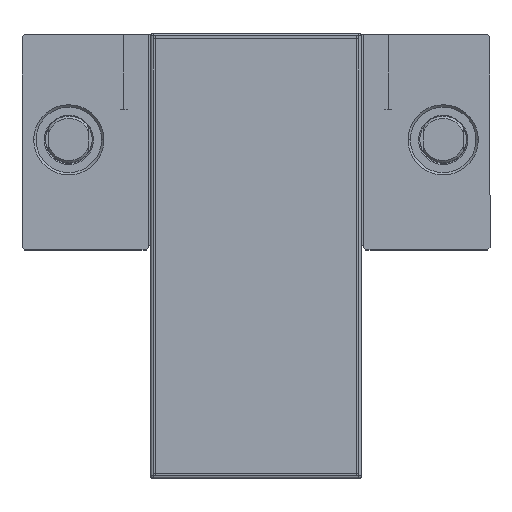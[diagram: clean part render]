
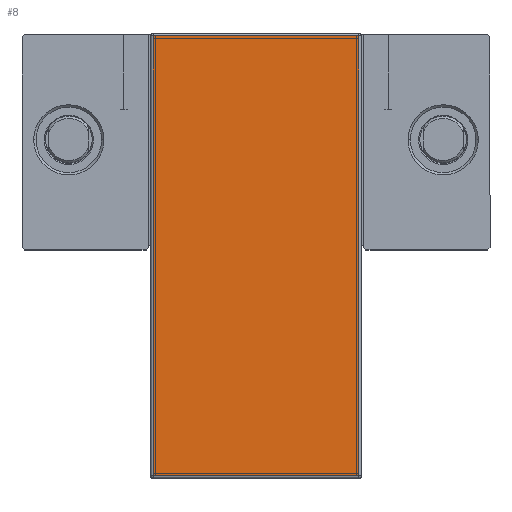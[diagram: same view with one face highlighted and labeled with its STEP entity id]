
A CAD part, top view. The second image highlights one B-rep face of the part: STEP entity #8.
In plain terms, the highlighted planar face has unit normal (0, 0, 1).
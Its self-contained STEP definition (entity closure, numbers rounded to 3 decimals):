
#8 = ADVANCED_FACE ( 'NONE', ( #872 ), #12555, .T. ) ;
#67 = CARTESIAN_POINT ( 'NONE',  ( -44., -144., 271. ) ) ;
#522 = EDGE_LOOP ( 'NONE', ( #25012, #26604, #4637, #23385 ) ) ;
#872 = FACE_OUTER_BOUND ( 'NONE', #522, .T. ) ;
#1768 = EDGE_CURVE ( 'NONE', #25049, #7173, #4438, .T. ) ;
#2947 = DIRECTION ( 'NONE',  ( -1., 0., 0. ) ) ;
#3320 = CARTESIAN_POINT ( 'NONE',  ( 44., -144., 271. ) ) ;
#4438 = LINE ( 'NONE', #30395, #18418 ) ;
#4637 = ORIENTED_EDGE ( 'NONE', *, *, #1768, .T. ) ;
#7173 = VERTEX_POINT ( 'NONE', #9991 ) ;
#9534 = CARTESIAN_POINT ( 'NONE',  ( -44., -144., 271. ) ) ;
#9991 = CARTESIAN_POINT ( 'NONE',  ( 44., 44., 271. ) ) ;
#12555 = PLANE ( 'NONE',  #36917 ) ;
#13236 = VERTEX_POINT ( 'NONE', #21397 ) ;
#13718 = EDGE_CURVE ( 'NONE', #13236, #13950, #24130, .T. ) ;
#13950 = VERTEX_POINT ( 'NONE', #22117 ) ;
#14802 = CARTESIAN_POINT ( 'NONE',  ( -44., 44., 271. ) ) ;
#15173 = DIRECTION ( 'NONE',  ( 1., 0., 0. ) ) ;
#18418 = VECTOR ( 'NONE', #18729, 1000. ) ;
#18729 = DIRECTION ( 'NONE',  ( 0., 1., 0. ) ) ;
#20310 = EDGE_CURVE ( 'NONE', #7173, #13236, #32908, .T. ) ;
#20407 = EDGE_CURVE ( 'NONE', #13950, #25049, #22223, .T. ) ;
#21397 = CARTESIAN_POINT ( 'NONE',  ( -44., 44., 271. ) ) ;
#22117 = CARTESIAN_POINT ( 'NONE',  ( -44., -144., 271. ) ) ;
#22223 = LINE ( 'NONE', #29932, #37052 ) ;
#23385 = ORIENTED_EDGE ( 'NONE', *, *, #20310, .T. ) ;
#24130 = LINE ( 'NONE', #67, #33873 ) ;
#25002 = VECTOR ( 'NONE', #2947, 1000. ) ;
#25012 = ORIENTED_EDGE ( 'NONE', *, *, #13718, .T. ) ;
#25049 = VERTEX_POINT ( 'NONE', #3320 ) ;
#26604 = ORIENTED_EDGE ( 'NONE', *, *, #20407, .T. ) ;
#27304 = DIRECTION ( 'NONE',  ( 0., 0., 1. ) ) ;
#29665 = DIRECTION ( 'NONE',  ( 0., -1., 0. ) ) ;
#29932 = CARTESIAN_POINT ( 'NONE',  ( 44., -144., 271. ) ) ;
#30316 = DIRECTION ( 'NONE',  ( 1., 0., 0. ) ) ;
#30395 = CARTESIAN_POINT ( 'NONE',  ( 44., 44., 271. ) ) ;
#32908 = LINE ( 'NONE', #14802, #25002 ) ;
#33873 = VECTOR ( 'NONE', #29665, 1000. ) ;
#36917 = AXIS2_PLACEMENT_3D ( 'NONE', #9534, #27304, #30316 ) ;
#37052 = VECTOR ( 'NONE', #15173, 1000. ) ;
